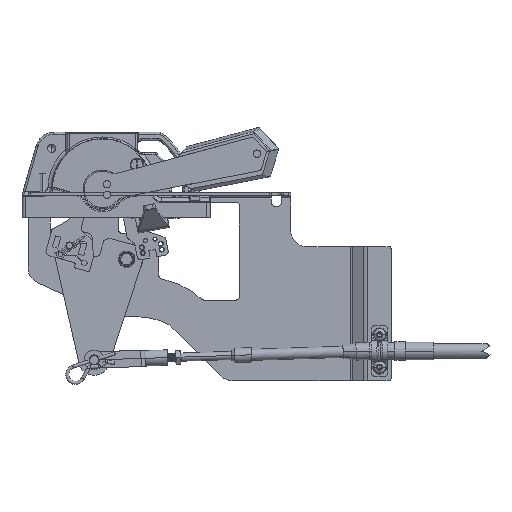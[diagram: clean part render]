
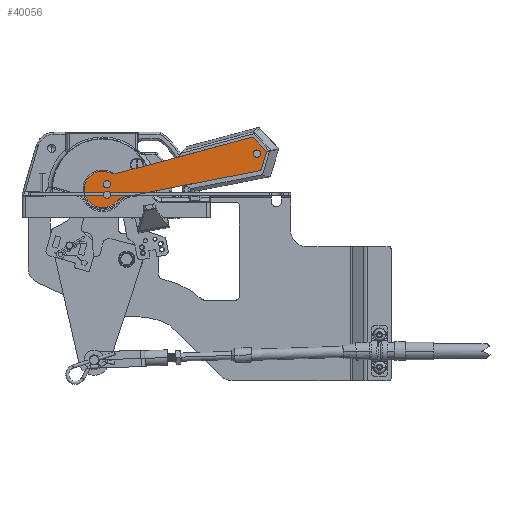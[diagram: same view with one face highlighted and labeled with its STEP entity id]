
A CAD part, left-side view. The second image highlights one B-rep face of the part: STEP entity #40056.
In plain terms, the highlighted planar face has unit normal (-1, 0, 0) as drawn and (0, 0, 1) by its records, which use the part's own axes.
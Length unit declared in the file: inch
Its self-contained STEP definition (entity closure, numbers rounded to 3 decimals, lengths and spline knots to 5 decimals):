
#39695=CARTESIAN_POINT('',(-0.12814,0.17637,0.));
#39696=DIRECTION('',(0.,0.,1.));
#39697=DIRECTION('',(-1.,0.,0.));
#39698=AXIS2_PLACEMENT_3D('',#39695,#39696,#39697);
#39700=CARTESIAN_POINT('',(-0.12814,0.17637,0.));
#39701=DIRECTION('',(0.,0.,1.));
#39702=DIRECTION('',(1.,0.,0.));
#39703=AXIS2_PLACEMENT_3D('',#39700,#39701,#39702);
#39705=CARTESIAN_POINT('',(0.19248,0.10234,0.));
#39706=DIRECTION('',(0.,0.,1.));
#39707=DIRECTION('',(-1.,0.,0.));
#39708=AXIS2_PLACEMENT_3D('',#39705,#39706,#39707);
#39710=CARTESIAN_POINT('',(0.19248,0.10234,0.));
#39711=DIRECTION('',(0.,0.,1.));
#39712=DIRECTION('',(1.,0.,0.));
#39713=AXIS2_PLACEMENT_3D('',#39710,#39711,#39712);
#39715=CARTESIAN_POINT('',(0.,4.875,0.));
#39716=DIRECTION('',(0.,0.,1.));
#39717=DIRECTION('',(-1.,0.,0.));
#39718=AXIS2_PLACEMENT_3D('',#39715,#39716,#39717);
#39720=CARTESIAN_POINT('',(0.,4.875,0.));
#39721=DIRECTION('',(0.,0.,1.));
#39722=DIRECTION('',(1.,0.,0.));
#39723=AXIS2_PLACEMENT_3D('',#39720,#39721,#39722);
#39725=CARTESIAN_POINT('',(0.,0.,0.));
#39726=DIRECTION('',(0.,0.,1.));
#39727=DIRECTION('',(-0.831,0.556,0.));
#39728=AXIS2_PLACEMENT_3D('',#39725,#39726,#39727);
#39730=DIRECTION('',(0.032,-0.999,0.));
#39731=VECTOR('',#39730,1.8952);
#39732=CARTESIAN_POINT('',(-0.4425,2.5,0.));
#39733=LINE('',#39732,#39731);
#39734=DIRECTION('',(0.037,-0.999,0.));
#39735=VECTOR('',#39734,2.30435);
#39736=CARTESIAN_POINT('',(-0.52831,4.80276,0.));
#39737=LINE('',#39736,#39735);
#39738=DIRECTION('',(-0.866,-0.5,0.));
#39739=VECTOR('',#39738,0.47157);
#39740=CARTESIAN_POINT('',(-0.06,5.14693,0.));
#39741=LINE('',#39740,#39739);
#39742=DIRECTION('',(-0.866,0.5,0.));
#39743=VECTOR('',#39742,0.47157);
#39744=CARTESIAN_POINT('',(0.46839,4.91115,0.));
#39745=LINE('',#39744,#39743);
#39746=DIRECTION('',(0.037,0.999,0.));
#39747=VECTOR('',#39746,2.30435);
#39748=CARTESIAN_POINT('',(0.4425,2.5,0.));
#39749=LINE('',#39748,#39747);
#39750=DIRECTION('',(0.032,0.999,0.));
#39751=VECTOR('',#39750,1.8952);
#39752=CARTESIAN_POINT('',(0.38115,0.60579,0.));
#39753=LINE('',#39752,#39751);
#39841=CARTESIAN_POINT('',(-0.88089,0.58961,0.));
#39842=DIRECTION('',(0.,0.,-1.));
#39843=DIRECTION('',(0.999,0.032,0.));
#39844=AXIS2_PLACEMENT_3D('',#39841,#39842,#39843);
#39859=CARTESIAN_POINT('',(0.88089,0.58961,0.));
#39860=DIRECTION('',(0.,0.,-1.));
#39861=DIRECTION('',(-0.831,-0.556,0.));
#39862=AXIS2_PLACEMENT_3D('',#39859,#39860,#39861);
#39881=CARTESIAN_POINT('',(0.40839,4.80722,0.));
#39882=DIRECTION('',(0.,0.,1.));
#39883=DIRECTION('',(0.999,-0.037,0.));
#39884=AXIS2_PLACEMENT_3D('',#39881,#39882,#39883);
#39899=CARTESIAN_POINT('',(0.,5.04301,0.));
#39900=DIRECTION('',(0.,0.,1.));
#39901=DIRECTION('',(0.5,0.866,0.));
#39902=AXIS2_PLACEMENT_3D('',#39899,#39900,#39901);
#39917=CARTESIAN_POINT('',(-0.40839,4.80722,0.));
#39918=DIRECTION('',(0.,0.,1.));
#39919=DIRECTION('',(-0.5,0.866,0.));
#39920=AXIS2_PLACEMENT_3D('',#39917,#39918,#39919);
#39935=CARTESIAN_POINT('',(-0.4425,2.5,0.));
#39937=VERTEX_POINT('',#39935);
#39939=CARTESIAN_POINT('',(0.4425,2.5,0.));
#39941=VERTEX_POINT('',#39939);
#39943=CARTESIAN_POINT('',(-0.24114,0.17637,0.));
#39944=CARTESIAN_POINT('',(-0.01514,0.17637,0.));
#39945=VERTEX_POINT('',#39943);
#39946=VERTEX_POINT('',#39944);
#39947=CARTESIAN_POINT('',(0.07948,0.10234,0.));
#39948=CARTESIAN_POINT('',(0.30548,0.10234,0.));
#39949=VERTEX_POINT('',#39947);
#39950=VERTEX_POINT('',#39948);
#39959=CARTESIAN_POINT('',(-0.115,4.875,0.));
#39960=CARTESIAN_POINT('',(0.115,4.875,0.));
#39961=VERTEX_POINT('',#39959);
#39962=VERTEX_POINT('',#39960);
#39968=CARTESIAN_POINT('',(-0.46839,4.91115,0.));
#39970=VERTEX_POINT('',#39968);
#39971=CARTESIAN_POINT('',(-0.52831,4.80276,0.));
#39972=VERTEX_POINT('',#39971);
#39976=CARTESIAN_POINT('',(0.06,5.14693,0.));
#39978=VERTEX_POINT('',#39976);
#39979=CARTESIAN_POINT('',(-0.06,5.14693,0.));
#39980=VERTEX_POINT('',#39979);
#39984=CARTESIAN_POINT('',(0.52831,4.80276,0.));
#39986=VERTEX_POINT('',#39984);
#39987=CARTESIAN_POINT('',(0.46839,4.91115,0.));
#39988=VERTEX_POINT('',#39987);
#39991=CARTESIAN_POINT('',(0.46535,0.31154,0.));
#39993=VERTEX_POINT('',#39991);
#39995=CARTESIAN_POINT('',(0.38115,0.60579,0.));
#39997=VERTEX_POINT('',#39995);
#39999=CARTESIAN_POINT('',(-0.38115,0.60579,0.));
#40001=VERTEX_POINT('',#39999);
#40003=CARTESIAN_POINT('',(-0.46535,0.31154,0.));
#40005=VERTEX_POINT('',#40003);
#40007=CARTESIAN_POINT('',(0.,0.,0.));
#40008=DIRECTION('',(0.,0.,1.));
#40009=DIRECTION('',(1.,0.,0.));
#40010=AXIS2_PLACEMENT_3D('',#40007,#40008,#40009);
#40011=PLANE('',#40010);
#40013=ORIENTED_EDGE('',*,*,#40012,.F.);
#40015=ORIENTED_EDGE('',*,*,#40014,.F.);
#40017=ORIENTED_EDGE('',*,*,#40016,.F.);
#40019=ORIENTED_EDGE('',*,*,#40018,.F.);
#40021=ORIENTED_EDGE('',*,*,#40020,.F.);
#40023=ORIENTED_EDGE('',*,*,#40022,.F.);
#40025=ORIENTED_EDGE('',*,*,#40024,.F.);
#40027=ORIENTED_EDGE('',*,*,#40026,.F.);
#40029=ORIENTED_EDGE('',*,*,#40028,.F.);
#40031=ORIENTED_EDGE('',*,*,#40030,.F.);
#40033=ORIENTED_EDGE('',*,*,#40032,.F.);
#40035=ORIENTED_EDGE('',*,*,#40034,.F.);
#40036=EDGE_LOOP('',(#40013,#40015,#40017,#40019,#40021,#40023,#40025,#40027,
#40029,#40031,#40033,#40035));
#40037=FACE_OUTER_BOUND('',#40036,.F.);
#40039=ORIENTED_EDGE('',*,*,#40038,.T.);
#40041=ORIENTED_EDGE('',*,*,#40040,.T.);
#40042=EDGE_LOOP('',(#40039,#40041));
#40043=FACE_BOUND('',#40042,.F.);
#40045=ORIENTED_EDGE('',*,*,#40044,.T.);
#40047=ORIENTED_EDGE('',*,*,#40046,.T.);
#40048=EDGE_LOOP('',(#40045,#40047));
#40049=FACE_BOUND('',#40048,.F.);
#40051=ORIENTED_EDGE('',*,*,#40050,.T.);
#40053=ORIENTED_EDGE('',*,*,#40052,.T.);
#40054=EDGE_LOOP('',(#40051,#40053));
#40055=FACE_BOUND('',#40054,.F.);
#39699=CIRCLE('',#39698,0.113);
#39704=CIRCLE('',#39703,0.113);
#39709=CIRCLE('',#39708,0.113);
#39714=CIRCLE('',#39713,0.113);
#39719=CIRCLE('',#39718,0.115);
#39724=CIRCLE('',#39723,0.115);
#39729=CIRCLE('',#39728,0.56);
#39845=CIRCLE('',#39844,0.5);
#39863=CIRCLE('',#39862,0.5);
#39885=CIRCLE('',#39884,0.12);
#39903=CIRCLE('',#39902,0.12);
#39921=CIRCLE('',#39920,0.12);
#40012=EDGE_CURVE('',#40005,#39993,#39729,.T.);
#40014=EDGE_CURVE('',#40001,#40005,#39845,.T.);
#40016=EDGE_CURVE('',#39937,#40001,#39733,.T.);
#40018=EDGE_CURVE('',#39972,#39937,#39737,.T.);
#40020=EDGE_CURVE('',#39970,#39972,#39921,.T.);
#40022=EDGE_CURVE('',#39980,#39970,#39741,.T.);
#40024=EDGE_CURVE('',#39978,#39980,#39903,.T.);
#40026=EDGE_CURVE('',#39988,#39978,#39745,.T.);
#40028=EDGE_CURVE('',#39986,#39988,#39885,.T.);
#40030=EDGE_CURVE('',#39941,#39986,#39749,.T.);
#40032=EDGE_CURVE('',#39997,#39941,#39753,.T.);
#40034=EDGE_CURVE('',#39993,#39997,#39863,.T.);
#40038=EDGE_CURVE('',#39949,#39950,#39709,.T.);
#40040=EDGE_CURVE('',#39950,#39949,#39714,.T.);
#40044=EDGE_CURVE('',#39961,#39962,#39719,.T.);
#40046=EDGE_CURVE('',#39962,#39961,#39724,.T.);
#40050=EDGE_CURVE('',#39945,#39946,#39699,.T.);
#40052=EDGE_CURVE('',#39946,#39945,#39704,.T.);
#40056=ADVANCED_FACE('',(#40037,#40043,#40049,#40055),#40011,.T.);
